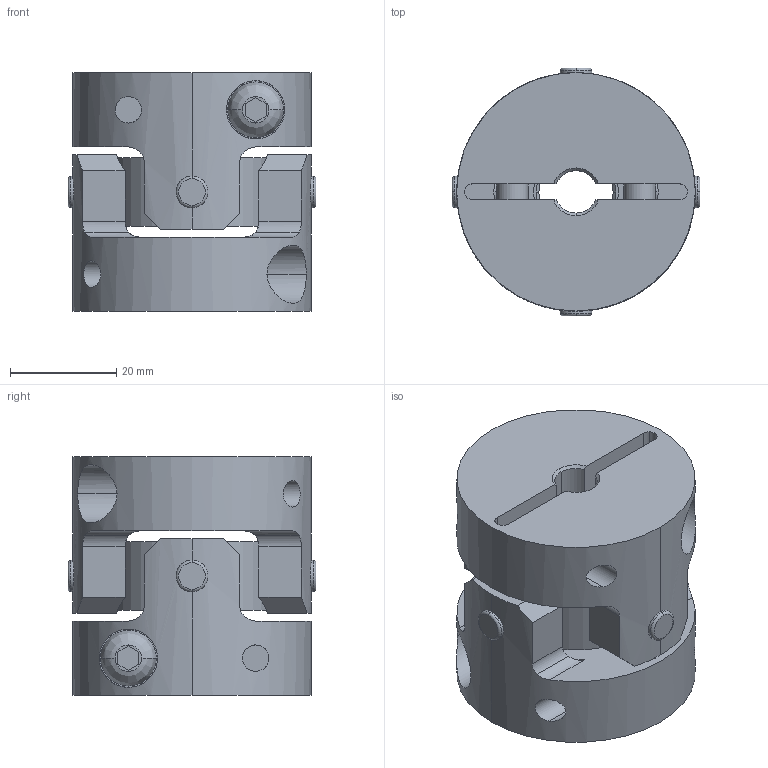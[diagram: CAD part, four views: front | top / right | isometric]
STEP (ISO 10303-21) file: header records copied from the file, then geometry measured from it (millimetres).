
FILE_DESCRIPTION((''),'2;1');
FILE_NAME('UA-45C-8×14.stp','2013-05-22T10:14:37',(''),(''),'AutoCAD STEP 2000i','AutoCAD 2000i',', , ');
FILE_SCHEMA(('CONFIG_CONTROL_DESIGN'));
Length unit declared in the file: millimetre
Products named in the file (6): UA-45C-8×8; 忣兜1; UA-4502-D08-1; BTN-M6; UA-4502-D08; UA45-SEN
Assembly tree (6 placements, depth 3):
  UA-45C-8×8
    忣兜1
    UA-4502-D08-1
      BTN-M6
    UA-4502-D08
      BTN-M6
    UA45-SEN
Bounding box: 46.73 x 46.73 x 45 mm (x, y, z)
Volume: 50495.6 mm3; surface area: 20271.2 mm2
Topology: 1 solids, 1 shells, 206 faces, 554 edges, 364 vertices
Faces by surface type: cylinder 96, plane 78, cone 16, bspline 8, torus 8
Entity records: 8523 total; most frequent: CARTESIAN_POINT 3207, ORIENTED_EDGE 1108, DIRECTION 1064, EDGE_CURVE 554, AXIS2_PLACEMENT_3D 409, VERTEX_POINT 364, VECTOR 246, LINE 246
